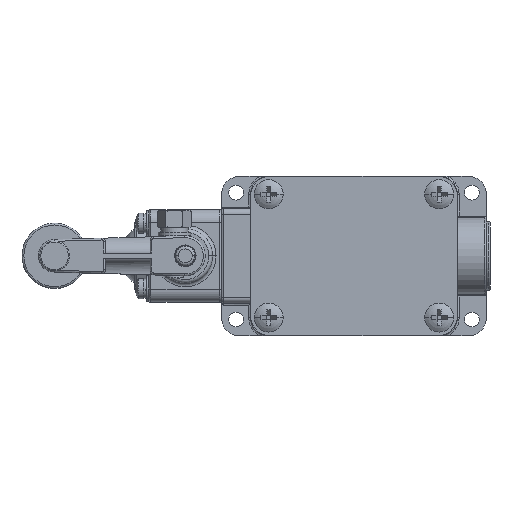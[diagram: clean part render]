
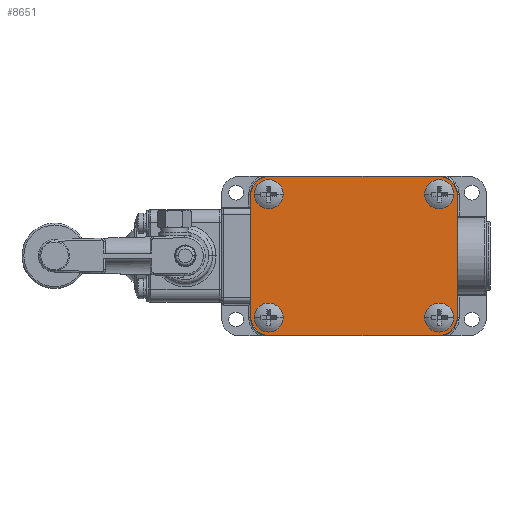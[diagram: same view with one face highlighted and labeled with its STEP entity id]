
A CAD part, top view. The second image highlights one B-rep face of the part: STEP entity #8651.
In plain terms, the highlighted planar face has unit normal (0, 0, 1).
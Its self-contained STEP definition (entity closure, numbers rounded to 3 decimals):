
#155=CARTESIAN_POINT('',(-23.,16.5,27.8));
#156=DIRECTION('',(0.,0.,1.));
#157=DIRECTION('',(0.,1.,0.));
#158=AXIS2_PLACEMENT_3D('',#155,#156,#157);
#160=DIRECTION('',(1.,0.,0.));
#161=VECTOR('',#160,46.);
#162=CARTESIAN_POINT('',(-23.,22.,27.8));
#163=LINE('',#162,#161);
#164=CARTESIAN_POINT('',(23.,16.5,27.8));
#165=DIRECTION('',(0.,0.,1.));
#166=DIRECTION('',(1.,0.,0.));
#167=AXIS2_PLACEMENT_3D('',#164,#165,#166);
#169=DIRECTION('',(0.,-1.,0.));
#170=VECTOR('',#169,33.);
#171=CARTESIAN_POINT('',(28.5,16.5,27.8));
#172=LINE('',#171,#170);
#173=CARTESIAN_POINT('',(23.,-16.5,27.8));
#174=DIRECTION('',(0.,0.,1.));
#175=DIRECTION('',(0.,-1.,0.));
#176=AXIS2_PLACEMENT_3D('',#173,#174,#175);
#178=DIRECTION('',(-1.,0.,0.));
#179=VECTOR('',#178,46.);
#180=CARTESIAN_POINT('',(23.,-22.,27.8));
#181=LINE('',#180,#179);
#182=CARTESIAN_POINT('',(-23.,-16.5,27.8));
#183=DIRECTION('',(0.,0.,1.));
#184=DIRECTION('',(-1.,0.,0.));
#185=AXIS2_PLACEMENT_3D('',#182,#183,#184);
#187=DIRECTION('',(0.,1.,0.));
#188=VECTOR('',#187,33.);
#189=CARTESIAN_POINT('',(-28.5,-16.5,27.8));
#190=LINE('',#189,#188);
#191=CARTESIAN_POINT('',(-23.5,-17.,27.8));
#192=DIRECTION('',(0.,0.,-1.));
#193=DIRECTION('',(-1.,0.,0.));
#194=AXIS2_PLACEMENT_3D('',#191,#192,#193);
#196=CARTESIAN_POINT('',(-23.5,-17.,27.8));
#197=DIRECTION('',(0.,0.,-1.));
#198=DIRECTION('',(1.,0.,0.));
#199=AXIS2_PLACEMENT_3D('',#196,#197,#198);
#201=CARTESIAN_POINT('',(-23.5,17.,27.8));
#202=DIRECTION('',(0.,0.,-1.));
#203=DIRECTION('',(-1.,0.,0.));
#204=AXIS2_PLACEMENT_3D('',#201,#202,#203);
#206=CARTESIAN_POINT('',(-23.5,17.,27.8));
#207=DIRECTION('',(0.,0.,-1.));
#208=DIRECTION('',(1.,0.,0.));
#209=AXIS2_PLACEMENT_3D('',#206,#207,#208);
#211=CARTESIAN_POINT('',(23.5,-17.,27.8));
#212=DIRECTION('',(0.,0.,-1.));
#213=DIRECTION('',(-1.,0.,0.));
#214=AXIS2_PLACEMENT_3D('',#211,#212,#213);
#216=CARTESIAN_POINT('',(23.5,-17.,27.8));
#217=DIRECTION('',(0.,0.,-1.));
#218=DIRECTION('',(1.,0.,0.));
#219=AXIS2_PLACEMENT_3D('',#216,#217,#218);
#221=CARTESIAN_POINT('',(23.5,17.,27.8));
#222=DIRECTION('',(0.,0.,-1.));
#223=DIRECTION('',(-1.,0.,0.));
#224=AXIS2_PLACEMENT_3D('',#221,#222,#223);
#226=CARTESIAN_POINT('',(23.5,17.,27.8));
#227=DIRECTION('',(0.,0.,-1.));
#228=DIRECTION('',(1.,0.,0.));
#229=AXIS2_PLACEMENT_3D('',#226,#227,#228);
#7884=CARTESIAN_POINT('',(-23.,22.,27.8));
#7885=CARTESIAN_POINT('',(-28.5,16.5,27.8));
#7886=VERTEX_POINT('',#7884);
#7887=VERTEX_POINT('',#7885);
#7888=CARTESIAN_POINT('',(-28.5,-16.5,27.8));
#7889=CARTESIAN_POINT('',(-23.,-22.,27.8));
#7890=VERTEX_POINT('',#7888);
#7891=VERTEX_POINT('',#7889);
#7892=CARTESIAN_POINT('',(28.5,16.5,27.8));
#7893=CARTESIAN_POINT('',(23.,22.,27.8));
#7894=VERTEX_POINT('',#7892);
#7895=VERTEX_POINT('',#7893);
#7896=CARTESIAN_POINT('',(23.,-22.,27.8));
#7897=CARTESIAN_POINT('',(28.5,-16.5,27.8));
#7898=VERTEX_POINT('',#7896);
#7899=VERTEX_POINT('',#7897);
#7940=CARTESIAN_POINT('',(-27.5,-17.,27.8));
#7941=CARTESIAN_POINT('',(-19.5,-17.,27.8));
#7942=VERTEX_POINT('',#7940);
#7943=VERTEX_POINT('',#7941);
#7984=CARTESIAN_POINT('',(-27.5,17.,27.8));
#7985=CARTESIAN_POINT('',(-19.5,17.,27.8));
#7986=VERTEX_POINT('',#7984);
#7987=VERTEX_POINT('',#7985);
#8028=CARTESIAN_POINT('',(19.5,-17.,27.8));
#8029=CARTESIAN_POINT('',(27.5,-17.,27.8));
#8030=VERTEX_POINT('',#8028);
#8031=VERTEX_POINT('',#8029);
#8072=CARTESIAN_POINT('',(19.5,17.,27.8));
#8073=CARTESIAN_POINT('',(27.5,17.,27.8));
#8074=VERTEX_POINT('',#8072);
#8075=VERTEX_POINT('',#8073);
#8605=CARTESIAN_POINT('',(0.,0.,27.8));
#8606=DIRECTION('',(0.,0.,-1.));
#8607=DIRECTION('',(0.,-1.,0.));
#8608=AXIS2_PLACEMENT_3D('',#8605,#8606,#8607);
#8609=PLANE('',#8608);
#8611=ORIENTED_EDGE('',*,*,#8610,.F.);
#8613=ORIENTED_EDGE('',*,*,#8612,.T.);
#8615=ORIENTED_EDGE('',*,*,#8614,.F.);
#8617=ORIENTED_EDGE('',*,*,#8616,.T.);
#8619=ORIENTED_EDGE('',*,*,#8618,.F.);
#8621=ORIENTED_EDGE('',*,*,#8620,.T.);
#8623=ORIENTED_EDGE('',*,*,#8622,.F.);
#8625=ORIENTED_EDGE('',*,*,#8624,.T.);
#8626=EDGE_LOOP('',(#8611,#8613,#8615,#8617,#8619,#8621,#8623,#8625));
#8627=FACE_OUTER_BOUND('',#8626,.F.);
#8629=ORIENTED_EDGE('',*,*,#8628,.F.);
#8631=ORIENTED_EDGE('',*,*,#8630,.F.);
#8632=EDGE_LOOP('',(#8629,#8631));
#8633=FACE_BOUND('',#8632,.F.);
#8634=ORIENTED_EDGE('',*,*,#8595,.F.);
#8636=ORIENTED_EDGE('',*,*,#8635,.F.);
#8637=EDGE_LOOP('',(#8634,#8636));
#8638=FACE_BOUND('',#8637,.F.);
#8640=ORIENTED_EDGE('',*,*,#8639,.F.);
#8642=ORIENTED_EDGE('',*,*,#8641,.F.);
#8643=EDGE_LOOP('',(#8640,#8642));
#8644=FACE_BOUND('',#8643,.F.);
#8646=ORIENTED_EDGE('',*,*,#8645,.F.);
#8648=ORIENTED_EDGE('',*,*,#8647,.F.);
#8649=EDGE_LOOP('',(#8646,#8648));
#8650=FACE_BOUND('',#8649,.F.);
#8651=ADVANCED_FACE('',(#8627,#8633,#8638,#8644,#8650),#8609,.F.);
#159=CIRCLE('',#158,5.5);
#168=CIRCLE('',#167,5.5);
#177=CIRCLE('',#176,5.5);
#186=CIRCLE('',#185,5.5);
#195=CIRCLE('',#194,4.);
#200=CIRCLE('',#199,4.);
#205=CIRCLE('',#204,4.);
#210=CIRCLE('',#209,4.);
#215=CIRCLE('',#214,4.);
#220=CIRCLE('',#219,4.);
#225=CIRCLE('',#224,4.);
#230=CIRCLE('',#229,4.);
#8595=EDGE_CURVE('',#7986,#7987,#205,.T.);
#8610=EDGE_CURVE('',#7886,#7887,#159,.T.);
#8612=EDGE_CURVE('',#7886,#7895,#163,.T.);
#8614=EDGE_CURVE('',#7894,#7895,#168,.T.);
#8616=EDGE_CURVE('',#7894,#7899,#172,.T.);
#8618=EDGE_CURVE('',#7898,#7899,#177,.T.);
#8620=EDGE_CURVE('',#7898,#7891,#181,.T.);
#8622=EDGE_CURVE('',#7890,#7891,#186,.T.);
#8624=EDGE_CURVE('',#7890,#7887,#190,.T.);
#8628=EDGE_CURVE('',#7942,#7943,#195,.T.);
#8630=EDGE_CURVE('',#7943,#7942,#200,.T.);
#8635=EDGE_CURVE('',#7987,#7986,#210,.T.);
#8639=EDGE_CURVE('',#8030,#8031,#215,.T.);
#8641=EDGE_CURVE('',#8031,#8030,#220,.T.);
#8645=EDGE_CURVE('',#8074,#8075,#225,.T.);
#8647=EDGE_CURVE('',#8075,#8074,#230,.T.);
